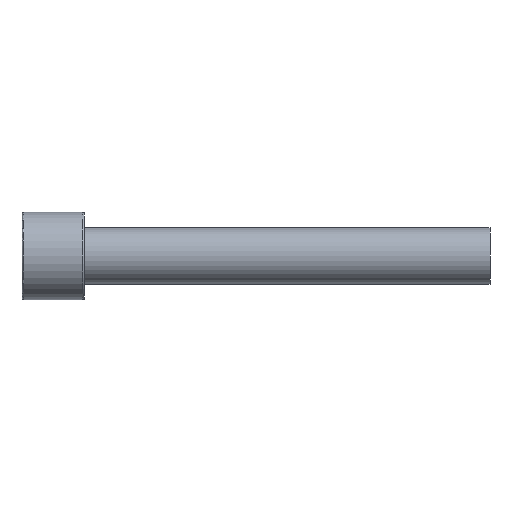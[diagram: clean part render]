
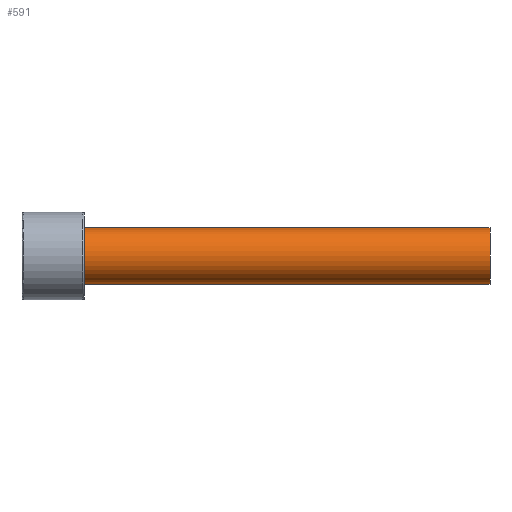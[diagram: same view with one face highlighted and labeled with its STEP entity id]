
A CAD part, front view. The second image highlights one B-rep face of the part: STEP entity #591.
In plain terms, the highlighted cylindrical face has radius 9 mm (diameter 18 mm), a partial arc.
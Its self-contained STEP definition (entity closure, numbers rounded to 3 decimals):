
#425=CARTESIAN_POINT('Vertex',(150.,0.,9.)) ;
#428=CARTESIAN_POINT('Axis2P3D Location',(150.,0.,0.)) ;
#432=CARTESIAN_POINT('Vertex',(150.,-9.,0.)) ;
#435=CARTESIAN_POINT('Axis2P3D Location',(150.,0.,0.)) ;
#439=CARTESIAN_POINT('Vertex',(150.,0.,-9.)) ;
#531=CARTESIAN_POINT('Line Origine',(150.,0.,9.)) ;
#535=CARTESIAN_POINT('Vertex',(20.,0.,9.)) ;
#538=CARTESIAN_POINT('Line Origine',(150.,0.,-9.)) ;
#542=CARTESIAN_POINT('Vertex',(20.,0.,-9.)) ;
#566=CARTESIAN_POINT('Axis2P3D Location',(150.,0.,0.)) ;
#571=CARTESIAN_POINT('Axis2P3D Location',(20.,0.,0.)) ;
#575=CARTESIAN_POINT('Vertex',(20.,-9.,0.)) ;
#578=CARTESIAN_POINT('Axis2P3D Location',(20.,0.,0.)) ;
#429=DIRECTION('Axis2P3D Direction',(1.,0.,-0.)) ;
#436=DIRECTION('Axis2P3D Direction',(1.,0.,-0.)) ;
#532=DIRECTION('Vector Direction',(-1.,0.,0.)) ;
#539=DIRECTION('Vector Direction',(-1.,0.,0.)) ;
#567=DIRECTION('Axis2P3D Direction',(-1.,-0.,-0.)) ;
#568=DIRECTION('Axis2P3D XDirection',(0.,0.,-1.)) ;
#572=DIRECTION('Axis2P3D Direction',(-1.,-0.,-0.)) ;
#579=DIRECTION('Axis2P3D Direction',(-1.,-0.,-0.)) ;
#430=AXIS2_PLACEMENT_3D('Circle Axis2P3D',#428,#429,$) ;
#437=AXIS2_PLACEMENT_3D('Circle Axis2P3D',#435,#436,$) ;
#569=AXIS2_PLACEMENT_3D('Cylinder Axis2P3D',#566,#567,#568) ;
#573=AXIS2_PLACEMENT_3D('Circle Axis2P3D',#571,#572,$) ;
#580=AXIS2_PLACEMENT_3D('Circle Axis2P3D',#578,#579,$) ;
#584=ORIENTED_EDGE('',*,*,#544,.T.) ;
#585=ORIENTED_EDGE('',*,*,#441,.F.) ;
#586=ORIENTED_EDGE('',*,*,#434,.F.) ;
#587=ORIENTED_EDGE('',*,*,#537,.T.) ;
#588=ORIENTED_EDGE('',*,*,#577,.T.) ;
#589=ORIENTED_EDGE('',*,*,#582,.T.) ;
#533=VECTOR('Line Direction',#532,1.) ;
#540=VECTOR('Line Direction',#539,1.) ;
#591=ADVANCED_FACE('367-18X150',(#590),#570,.T.) ;
#431=CIRCLE('generated circle',#430,9.) ;
#438=CIRCLE('generated circle',#437,9.) ;
#574=CIRCLE('generated circle',#573,9.) ;
#581=CIRCLE('generated circle',#580,9.) ;
#570=CYLINDRICAL_SURFACE('generated cylinder',#569,9.) ;
#434=EDGE_CURVE('',#426,#433,#431,.T.) ;
#441=EDGE_CURVE('',#433,#440,#438,.T.) ;
#537=EDGE_CURVE('',#426,#536,#534,.T.) ;
#544=EDGE_CURVE('',#543,#440,#541,.F.) ;
#577=EDGE_CURVE('',#536,#576,#574,.F.) ;
#582=EDGE_CURVE('',#576,#543,#581,.F.) ;
#583=EDGE_LOOP('',(#584,#585,#586,#587,#588,#589)) ;
#590=FACE_OUTER_BOUND('',#583,.T.) ;
#534=LINE('Line',#531,#533) ;
#541=LINE('Line',#538,#540) ;
#426=VERTEX_POINT('',#425) ;
#433=VERTEX_POINT('',#432) ;
#440=VERTEX_POINT('',#439) ;
#536=VERTEX_POINT('',#535) ;
#543=VERTEX_POINT('',#542) ;
#576=VERTEX_POINT('',#575) ;
